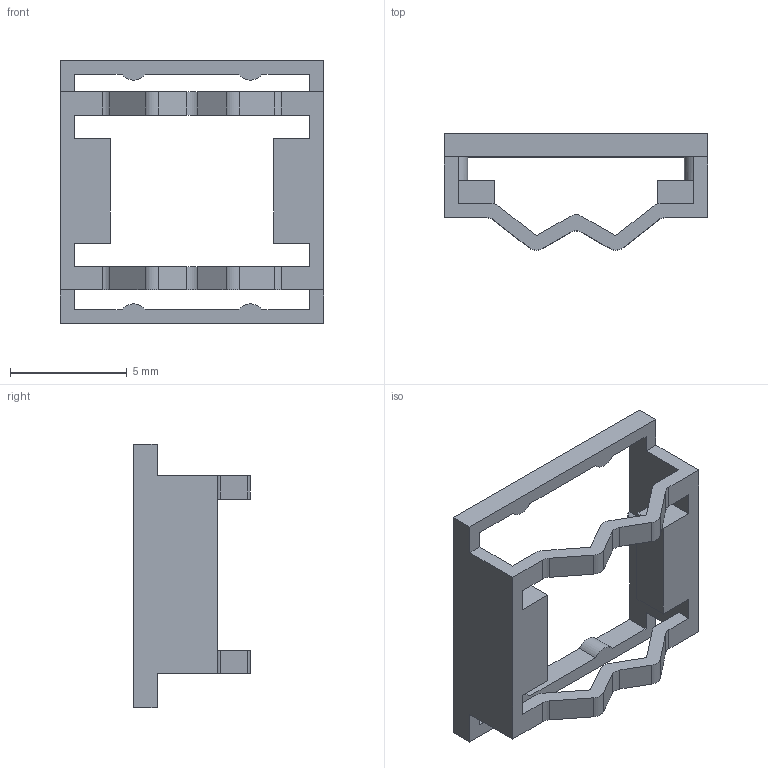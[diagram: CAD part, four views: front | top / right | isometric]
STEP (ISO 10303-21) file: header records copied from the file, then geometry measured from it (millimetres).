
FILE_DESCRIPTION (( 'STEP AP214' ), '1' );
FILE_NAME ('J3NPH.step', '2017-05-24T07:40:08', ( 'admin' ), ( '' ), 'SwSTEP 2.0', 'SolidWorks 2014', '' );
FILE_SCHEMA (( 'AUTOMOTIVE_DESIGN' ));
Length unit declared in the file: millimetre
Products named in the file (1): J3NPH
Bounding box: 11.3 x 5 x 11.3 mm (x, y, z)
Volume: 90.4 mm3; surface area: 343.5 mm2
Topology: 1 solids, 1 shells, 76 faces, 237 edges, 158 vertices
Faces by surface type: plane 53, cylinder 23
Entity records: 2674 total; most frequent: CARTESIAN_POINT 481, ORIENTED_EDGE 474, DIRECTION 435, EDGE_CURVE 237, LINE 187, VECTOR 187, VERTEX_POINT 158, AXIS2_PLACEMENT_3D 124
